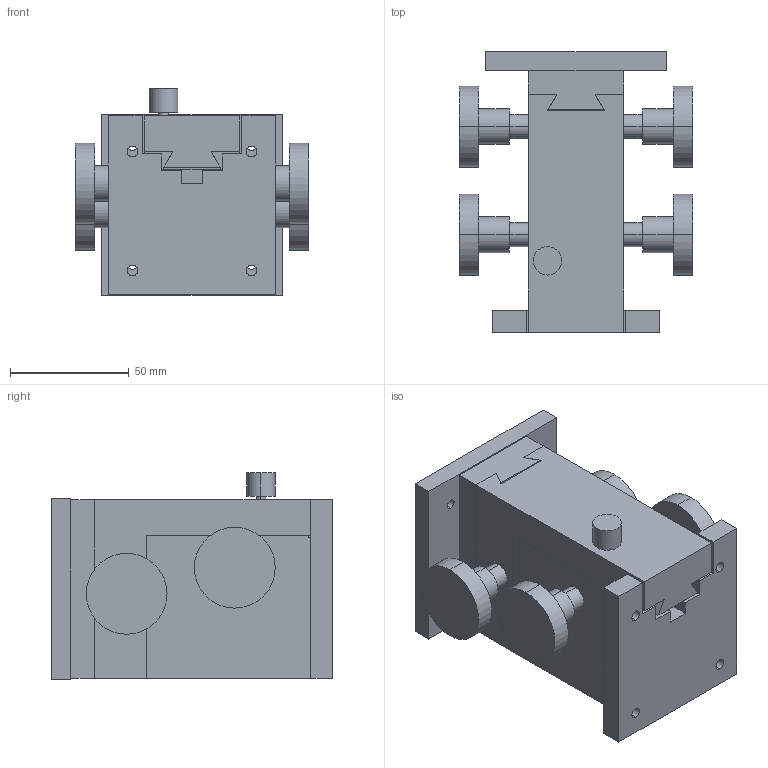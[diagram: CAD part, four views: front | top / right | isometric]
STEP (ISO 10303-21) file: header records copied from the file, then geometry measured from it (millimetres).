
FILE_DESCRIPTION (( 'STEP AP203' ), '1' );
FILE_NAME ('LM-212-1.STEP', '2008-04-02T01:13:05', ( '' ), ( '' ), 'SwSTEP 2.0', 'SolidWorks 2007', '' );
FILE_SCHEMA (( 'CONFIG_CONTROL_DESIGN' ));
Length unit declared in the file: millimetre
Products named in the file (4): LM-212-1-2_蹬怮椔; LM-212-1-1_蹬怮椔; LM-212-1; LM-212-1-3_蹬怮椔
Assembly tree (3 placements, depth 2):
  LM-212-1
    LM-212-1-2_蹬怮椔
    LM-212-1-3_蹬怮椔
    LM-212-1-1_蹬怮椔
Bounding box: 98 x 118 x 87 mm (x, y, z)
Volume: 428165.2 mm3; surface area: 89378.2 mm2
Topology: 4 solids, 12 shells, 222 faces, 490 edges, 326 vertices
Faces by surface type: cylinder 110, plane 110, cone 2
Entity records: 6648 total; most frequent: DIRECTION 1168, CARTESIAN_POINT 1044, ORIENTED_EDGE 980, EDGE_CURVE 490, AXIS2_PLACEMENT_3D 450, VERTEX_POINT 326, EDGE_LOOP 282, VECTOR 268
